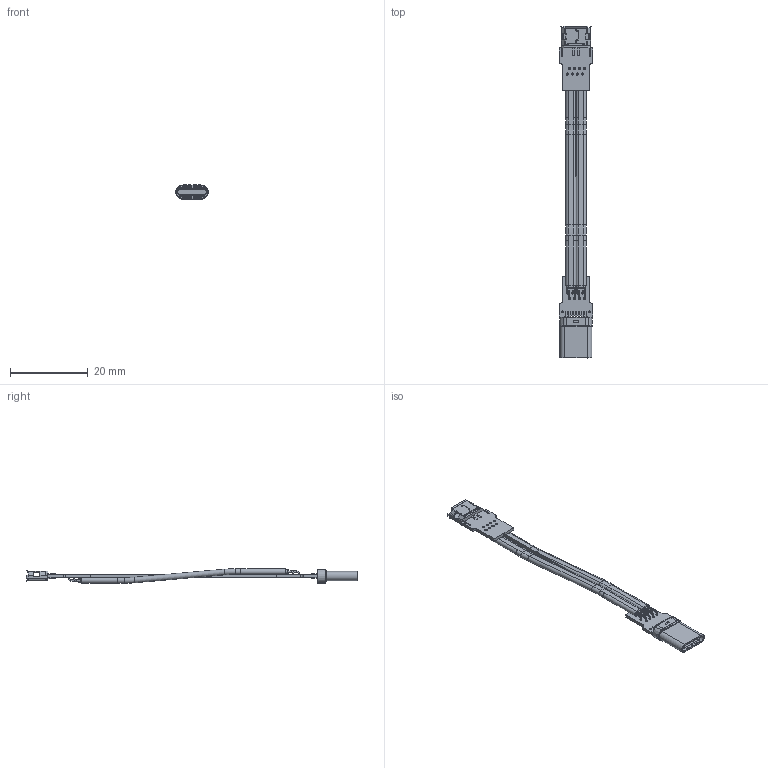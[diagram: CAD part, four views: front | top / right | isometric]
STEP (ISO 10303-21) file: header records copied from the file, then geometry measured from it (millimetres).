
FILE_DESCRIPTION(('Open CASCADE Model'),'2;1');
FILE_NAME('Open CASCADE Shape Model','2022-04-24T15:07:32',('Author'),( 'Open CASCADE'),'Open CASCADE STEP processor 6.8','Open CASCADE 6.8' ,'Unknown');
FILE_SCHEMA(('AUTOMOTIVE_DESIGN { 1 0 10303 214 1 1 1 1 }'));
Length unit declared in the file: millimetre
Products named in the file (60): PCB; Board; Open CASCADE STEP translator 6.8 1.1.1; Open CASCADE STEP translator 6.8 1.1.1.1; Designator22; Micro_usb_vetical_Crimping_20211215; Designator9; TYPE-C_14PIN_20211230; Free-Models; 8_pin_S_20211217
Assembly tree (65 placements, depth 4):
  PCB
    Board
      Open CASCADE STEP translator 6.8 1.1.1
        Open CASCADE STEP translator 6.8 1.1.1.1
    Designator22
      Micro_usb_vetical_Crimping_20211215  x2
      Micro_usb_vetical_Crimping_20211215
      Micro_usb_vetical_Crimping_20211215  x2
      Micro_usb_vetical_Crimping_20211215
      Micro_usb_vetical_Crimping_20211215  x2
      Micro_usb_vetical_Crimping_20211215
      Micro_usb_vetical_Crimping_20211215  x2
      Micro_usb_vetical_Crimping_20211215
      Micro_usb_vetical_Crimping_20211215  x2
      Micro_usb_vetical_Crimping_20211215
      Micro_usb_vetical_Crimping_20211215  x2
      Micro_usb_vetical_Crimping_20211215
    Designator9
      TYPE-C_14PIN_20211230
      TYPE-C_14PIN_20211230
      TYPE-C_14PIN_20211230
      TYPE-C_14PIN_20211230
      TYPE-C_14PIN_20211230
      TYPE-C_14PIN_20211230
      TYPE-C_14PIN_20211230
      TYPE-C_14PIN_20211230
      TYPE-C_14PIN_20211230
      TYPE-C_14PIN_20211230
      TYPE-C_14PIN_20211230
      TYPE-C_14PIN_20211230
      TYPE-C_14PIN_20211230
      TYPE-C_14PIN_20211230
      TYPE-C_14PIN_20211230
      TYPE-C_14PIN_20211230
      TYPE-C_14PIN_20211230
      TYPE-C_14PIN_20211230
      TYPE-C_14PIN_20211230
      TYPE-C_14PIN_20211230
      TYPE-C_14PIN_20211230
      TYPE-C_14PIN_20211230
      TYPE-C_14PIN_20211230
      TYPE-C_14PIN_20211230
      TYPE-C_14PIN_20211230
      TYPE-C_14PIN_20211230
      TYPE-C_14PIN_20211230
      TYPE-C_14PIN_20211230
      TYPE-C_14PIN_20211230
      TYPE-C_14PIN_20211230
      TYPE-C_14PIN_20211230
      TYPE-C_14PIN_20211230
      TYPE-C_14PIN_20211230
      TYPE-C_14PIN_20211230
      TYPE-C_14PIN_20211230
      TYPE-C_14PIN_20211230
      TYPE-C_14PIN_20211230
      TYPE-C_14PIN_20211230
      TYPE-C_14PIN_20211230
      TYPE-C_14PIN_20211230
    Free-Models
      8_pin_S_20211217
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Bounding box: 8.71 x 85.62 x 3.73 mm (x, y, z)
Volume: 623.4 mm3; surface area: 4355.8 mm2
Topology: 88 solids, 88 shells, 1719 faces, 4362 edges, 2808 vertices
Faces by surface type: plane 1022, cylinder 609, torus 52, bspline 30, extrusion 6
Full cylindrical faces by diameter (mm): 0.45 x2, 0.55 x16
Entity records: 55424 total; most frequent: CARTESIAN_POINT 8821, DIRECTION 7288, ORIENTED_EDGE 6940, EDGE_CURVE 3470, AXIS2_PLACEMENT_3D 2441, VECTOR 2406, LINE 2400, VERTEX_POINT 2240
